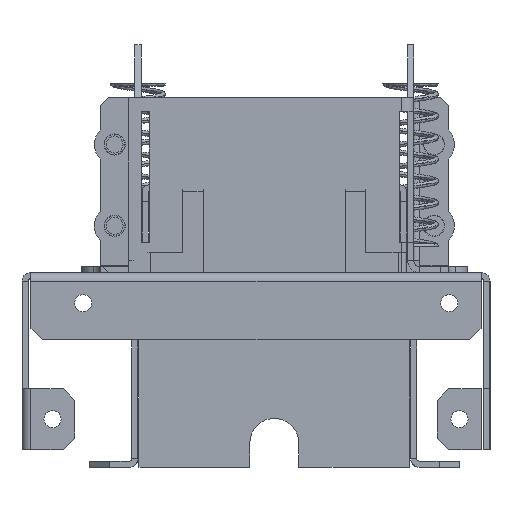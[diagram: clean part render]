
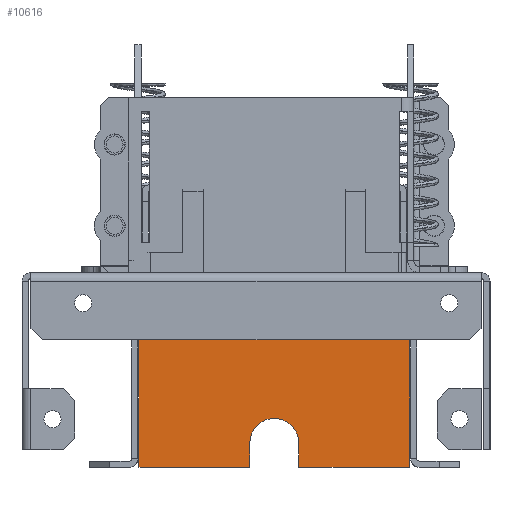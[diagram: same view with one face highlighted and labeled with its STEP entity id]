
A CAD part, left-side view. The second image highlights one B-rep face of the part: STEP entity #10616.
In plain terms, the highlighted planar face has unit normal (-1, 0, 0) as drawn and (0, 1, 0) by its records, which use the part's own axes.
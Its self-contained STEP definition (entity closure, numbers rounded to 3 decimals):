
#7641=CARTESIAN_POINT(' ',(33.25,22.5,-2.1));
#7642=VERTEX_POINT(' ',#7641);
#7656=CARTESIAN_POINT(' ',(33.25,22.5,-2.1));
#7661=DIRECTION(' ',(-1.,0.,0.));
#7666=VECTOR(' ',#7661,1.);
#7671=LINE('',#7656,#7666);
#7676=CARTESIAN_POINT(' ',(-33.25,22.5,-2.1));
#7677=VERTEX_POINT(' ',#7676);
#7681=EDGE_CURVE(' ',#7642,#7677,#7671,.T.);
#10331=DIRECTION(' ',(0.,1.,0.));
#10336=CARTESIAN_POINT(' ',(-33.25,22.5,-2.1));
#10341=DIRECTION(' ',(1.,0.,0.));
#10346=AXIS2_PLACEMENT_3D(' ',#10336,#10331,#10341);
#10351=PLANE('NONE',#10346);
#10356=CARTESIAN_POINT(' ',(6.,22.5,-44.));
#10361=DIRECTION(' ',(0.,0.,1.));
#10366=VECTOR(' ',#10361,1.);
#10371=LINE('',#10356,#10366);
#10376=CARTESIAN_POINT(' ',(6.,22.5,-44.));
#10377=VERTEX_POINT(' ',#10376);
#10381=CARTESIAN_POINT(' ',(6.,22.5,-38.));
#10382=VERTEX_POINT(' ',#10381);
#10386=EDGE_CURVE(' ',#10377,#10382,#10371,.T.);
#10391=ORIENTED_EDGE(' ',*,*,#10386,.T.);
#10396=CARTESIAN_POINT(' ',(0.,22.5,-38.));
#10401=DIRECTION(' ',(0.,-1.,0.));
#10406=DIRECTION(' ',(1.,0.,0.));
#10411=AXIS2_PLACEMENT_3D(' ',#10396,#10401,#10406);
#10416=CIRCLE('',#10411,6.);
#10421=CARTESIAN_POINT(' ',(-6.,22.5,-38.));
#10422=VERTEX_POINT(' ',#10421);
#10426=EDGE_CURVE(' ',#10382,#10422,#10416,.T.);
#10431=ORIENTED_EDGE(' ',*,*,#10426,.T.);
#10436=CARTESIAN_POINT(' ',(-6.,22.5,-38.));
#10441=DIRECTION(' ',(0.,0.,-1.));
#10446=VECTOR(' ',#10441,1.);
#10451=LINE('',#10436,#10446);
#10456=CARTESIAN_POINT(' ',(-6.,22.5,-44.));
#10457=VERTEX_POINT(' ',#10456);
#10461=EDGE_CURVE(' ',#10422,#10457,#10451,.T.);
#10466=ORIENTED_EDGE(' ',*,*,#10461,.T.);
#10471=CARTESIAN_POINT(' ',(-6.,22.5,-44.));
#10476=DIRECTION(' ',(-1.,0.,0.));
#10481=VECTOR(' ',#10476,1.);
#10486=LINE('',#10471,#10481);
#10491=CARTESIAN_POINT(' ',(-33.25,22.5,-44.));
#10492=VERTEX_POINT(' ',#10491);
#10496=EDGE_CURVE(' ',#10457,#10492,#10486,.T.);
#10501=ORIENTED_EDGE(' ',*,*,#10496,.T.);
#10506=CARTESIAN_POINT(' ',(-33.25,22.5,-2.1));
#10511=DIRECTION(' ',(0.,0.,-1.));
#10516=VECTOR(' ',#10511,1.);
#10521=LINE('',#10506,#10516);
#10526=EDGE_CURVE(' ',#7677,#10492,#10521,.T.);
#10531=ORIENTED_EDGE(' ',*,*,#10526,.F.);
#10536=ORIENTED_EDGE(' ',*,*,#7681,.F.);
#10541=CARTESIAN_POINT(' ',(33.25,22.5,-2.1));
#10546=DIRECTION(' ',(0.,0.,-1.));
#10551=VECTOR(' ',#10546,1.);
#10556=LINE('',#10541,#10551);
#10561=CARTESIAN_POINT(' ',(33.25,22.5,-44.));
#10562=VERTEX_POINT(' ',#10561);
#10566=EDGE_CURVE(' ',#7642,#10562,#10556,.T.);
#10571=ORIENTED_EDGE(' ',*,*,#10566,.T.);
#10576=CARTESIAN_POINT(' ',(33.25,22.5,-44.));
#10581=DIRECTION(' ',(-1.,0.,0.));
#10586=VECTOR(' ',#10581,1.);
#10591=LINE('',#10576,#10586);
#10596=EDGE_CURVE(' ',#10562,#10377,#10591,.T.);
#10601=ORIENTED_EDGE(' ',*,*,#10596,.T.);
#10606=EDGE_LOOP(' ',(#10391,#10431,#10466,#10501,#10531,#10536,#10571,#10601));
#10611=FACE_OUTER_BOUND(' ',#10606,.T.);
#10616=ADVANCED_FACE('NONE',(#10611),#10351,.T.);
